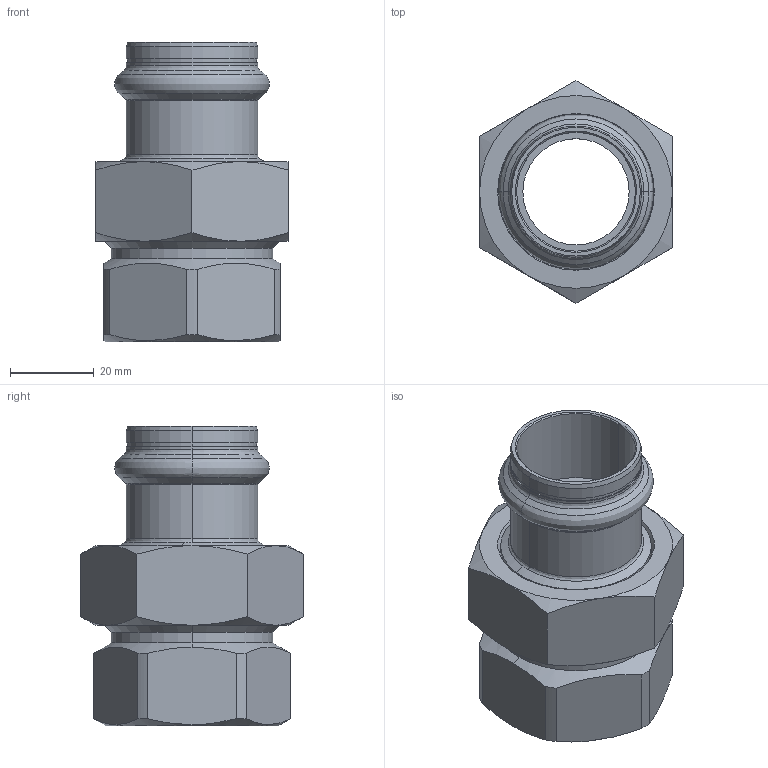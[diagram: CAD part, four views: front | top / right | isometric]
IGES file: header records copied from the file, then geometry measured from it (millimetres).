
Start section: Elysium IGES Interface
Global section: file name: C:\3d modellen sudo\C-Pr VP\SP8330GV\8330GVW281.igs; native system: CoCreate Modeling 17.00A  17-Jun-2010; preprocessor: CoCreate IGES_3D V2.2; author: Unknown; organization: Unknown; date: 20130305.131925; units: millimetre
Bounding box: 46 x 53.12 x 71.5 mm (x, y, z)
Volume: 46312.8 mm3; surface area: 24059.3 mm2
Topology: 3 solids, 3 shells, 124 faces, 283 edges, 164 vertices
Faces by surface type: bspline 124
